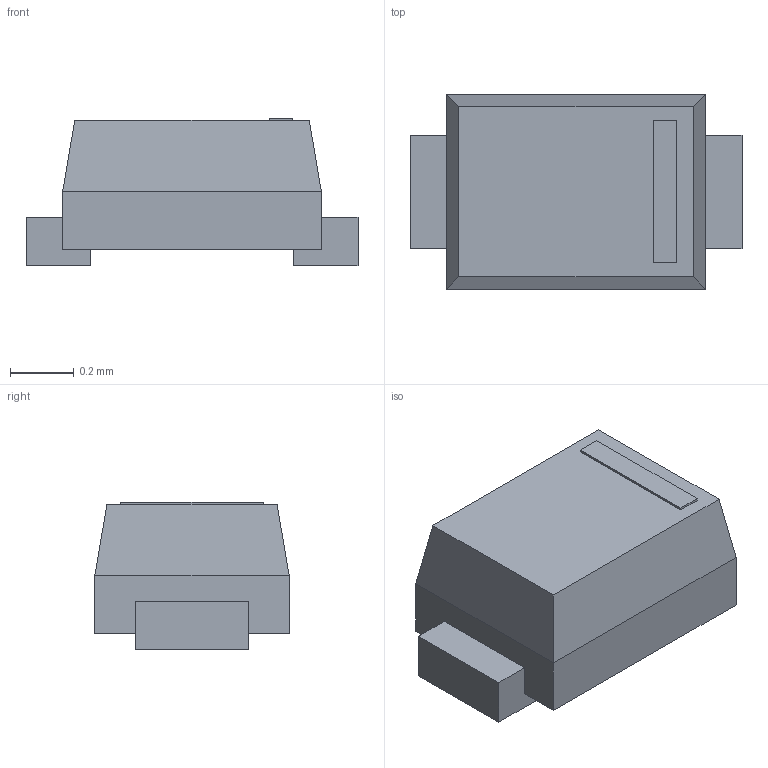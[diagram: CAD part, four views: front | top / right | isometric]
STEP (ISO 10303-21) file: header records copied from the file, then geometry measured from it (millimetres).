
FILE_DESCRIPTION(('STEP AP214'),'1');
FILE_NAME('SOD-923_TOS','2026-01-07T11:08:39',(''),(''),'','','');
FILE_SCHEMA(('AUTOMOTIVE_DESIGN'));
Length unit declared in the file: millimetre
Products named in the file (1): product
Bounding box: 1.04 x 0.61 x 0.46 mm (x, y, z)
Volume: 0.2 mm3; surface area: 2.7 mm2
Topology: 4 solids, 4 shells, 32 faces, 68 edges, 44 vertices
Faces by surface type: plane 32
Entity records: 966 total; most frequent: ORIENTED_EDGE 136, DIRECTION 134, CARTESIAN_POINT 77, EDGE_CURVE 68, LINE 68, VECTOR 68, VERTEX_POINT 44, AXIS2_PLACEMENT_3D 33
